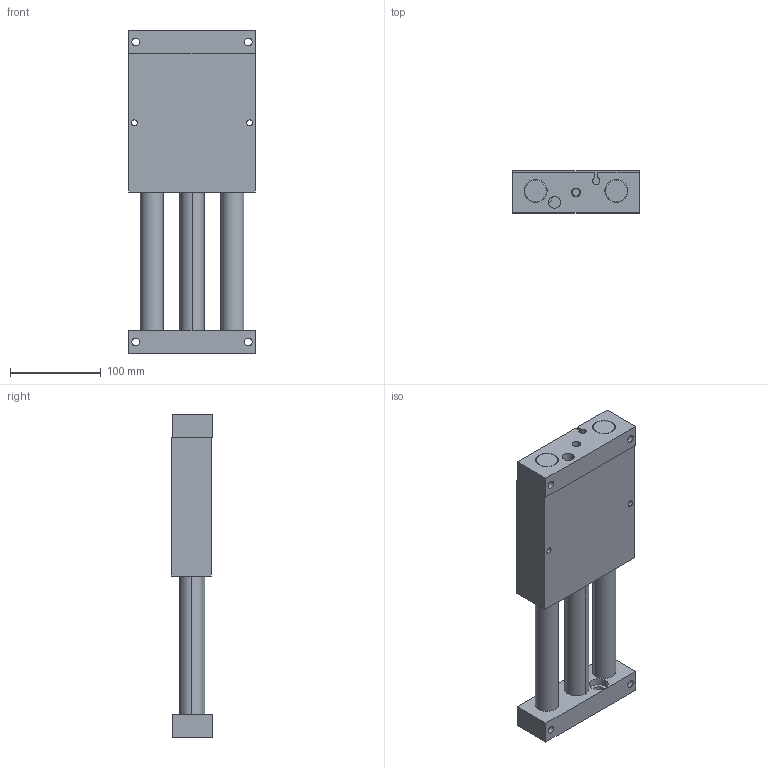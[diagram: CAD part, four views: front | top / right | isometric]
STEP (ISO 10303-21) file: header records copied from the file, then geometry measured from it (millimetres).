
FILE_DESCRIPTION (( 'STEP AP203' ), '1' );
FILE_NAME ('AGSL-6 NO SHOCKS in MM.STEP', '2014-11-07T17:04:28', ( 'setup' ), ( '' ), 'SwSTEP 2.0', 'SolidWorks 2013', '' );
FILE_SCHEMA (( 'CONFIG_CONTROL_DESIGN' ));
Length unit declared in the file: millimetre
Products named in the file (5): AGSL-6 NO SHOCKS in MM; AGSL-6 BODY; AGSL-6 END SUPPORT; AGSL-6 PISTON ROD; AGSL-6 GUIDE ROD
Assembly tree (6 placements, depth 2):
  AGSL-6 NO SHOCKS in MM
    AGSL-6 BODY
    AGSL-6 END SUPPORT  x2
    AGSL-6 PISTON ROD
    AGSL-6 GUIDE ROD  x2
Bounding box: 139.7 x 46.05 x 355.6 mm (x, y, z)
Volume: 1353482.9 mm3; surface area: 257724.5 mm2
Topology: 6 solids, 6 shells, 164 faces, 396 edges, 258 vertices
Faces by surface type: cylinder 98, plane 50, cone 16
Entity records: 3887 total; most frequent: CARTESIAN_POINT 742, DIRECTION 588, ORIENTED_EDGE 488, EDGE_CURVE 244, AXIS2_PLACEMENT_3D 241, VERTEX_POINT 161, EDGE_LOOP 147, CIRCLE 128
